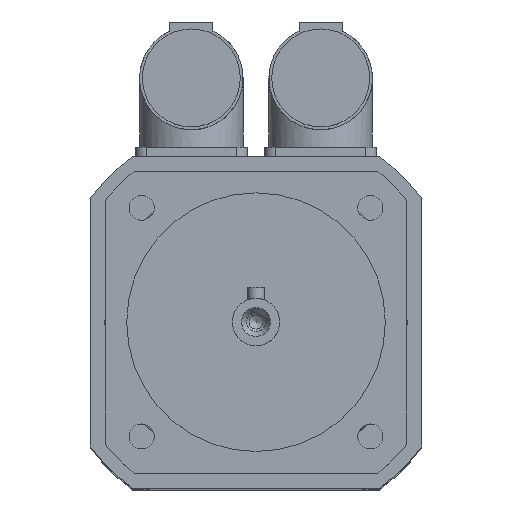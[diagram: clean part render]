
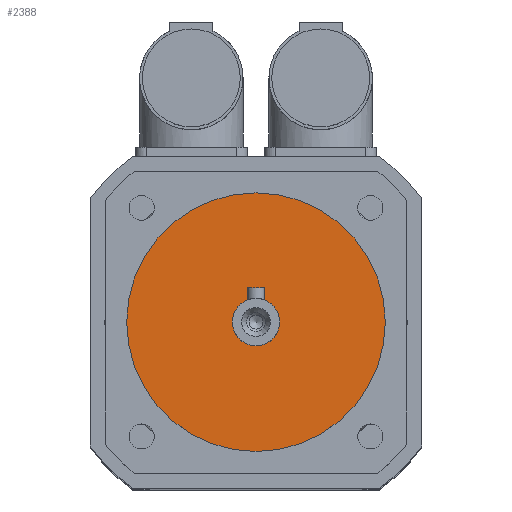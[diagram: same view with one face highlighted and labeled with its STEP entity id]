
A CAD part, top view. The second image highlights one B-rep face of the part: STEP entity #2388.
In plain terms, the highlighted planar face has unit normal (0, 0, 1).
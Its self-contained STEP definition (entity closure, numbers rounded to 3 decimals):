
#484=PLANE('',#2572);
#601=FACE_BOUND('',#819,.T.);
#665=FACE_OUTER_BOUND('',#818,.T.);
#818=EDGE_LOOP('',(#1867));
#819=EDGE_LOOP('',(#1868));
#965=CIRCLE('',#2571,5.5);
#966=CIRCLE('',#2573,30.);
#1130=VERTEX_POINT('',#3794);
#1131=VERTEX_POINT('',#3797);
#1405=EDGE_CURVE('',#1130,#1130,#965,.T.);
#1406=EDGE_CURVE('',#1131,#1131,#966,.T.);
#1867=ORIENTED_EDGE('',*,*,#1406,.F.);
#1868=ORIENTED_EDGE('',*,*,#1405,.T.);
#2388=ADVANCED_FACE('',(#665,#601),#484,.T.);
#2571=AXIS2_PLACEMENT_3D('',#3795,#2996,#2997);
#2572=AXIS2_PLACEMENT_3D('',#3796,#2998,#2999);
#2573=AXIS2_PLACEMENT_3D('',#3798,#3000,#3001);
#2996=DIRECTION('center_axis',(0.,0.,-1.));
#2997=DIRECTION('ref_axis',(1.,0.,0.));
#2998=DIRECTION('center_axis',(0.,0.,1.));
#2999=DIRECTION('ref_axis',(1.,0.,0.));
#3000=DIRECTION('center_axis',(0.,0.,-1.));
#3001=DIRECTION('ref_axis',(1.,0.,0.));
#3794=CARTESIAN_POINT('',(0.,5.5,233.));
#3795=CARTESIAN_POINT('Origin',(0.,0.,233.));
#3796=CARTESIAN_POINT('Origin',(0.,30.,233.));
#3797=CARTESIAN_POINT('',(0.,30.,233.));
#3798=CARTESIAN_POINT('Origin',(0.,0.,233.));
